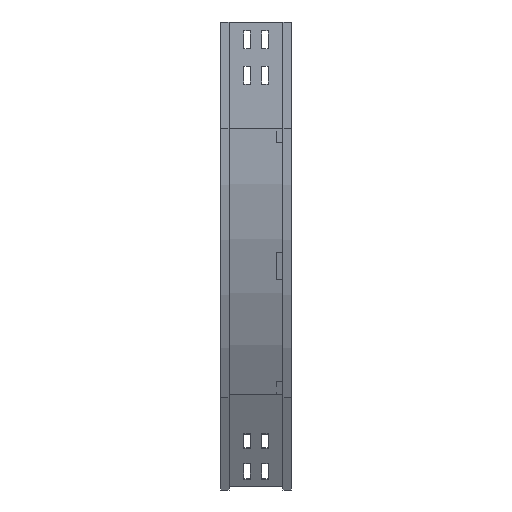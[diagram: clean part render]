
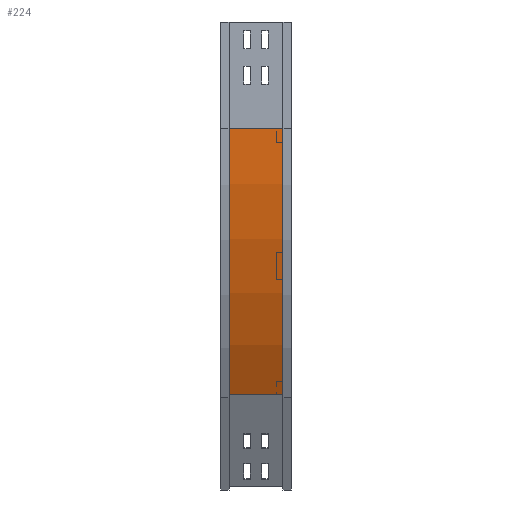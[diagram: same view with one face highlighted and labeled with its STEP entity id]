
A CAD part, left-side view. The second image highlights one B-rep face of the part: STEP entity #224.
In plain terms, the highlighted cylindrical face has radius 750 mm (diameter 1500 mm), a partial arc.
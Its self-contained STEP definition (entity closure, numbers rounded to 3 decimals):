
#79 = ORIENTED_EDGE ( 'NONE', *, *, #229, .T. ) ;
#147 = CIRCLE ( 'NONE', #3859, 750. ) ;
#180 = VERTEX_POINT ( 'NONE', #2511 ) ;
#224 = ADVANCED_FACE ( 'NONE', ( #2421 ), #2781, .T. ) ;
#229 = EDGE_CURVE ( 'NONE', #3177, #2526, #562, .T. ) ;
#324 = CARTESIAN_POINT ( 'NONE',  ( 9., 12., -150. ) ) ;
#389 = CARTESIAN_POINT ( 'NONE',  ( 759., 88., -150. ) ) ;
#409 = DIRECTION ( 'NONE',  ( 0., -1., 0. ) ) ;
#423 = CARTESIAN_POINT ( 'NONE',  ( 109.481, 12., -525. ) ) ;
#562 = CIRCLE ( 'NONE', #1730, 750. ) ;
#601 = DIRECTION ( 'NONE',  ( 0., -1., 0. ) ) ;
#1143 = AXIS2_PLACEMENT_3D ( 'NONE', #2439, #409, #2492 ) ;
#1616 = EDGE_CURVE ( 'NONE', #2526, #1757, #2434, .T. ) ;
#1730 = AXIS2_PLACEMENT_3D ( 'NONE', #389, #3151, #3882 ) ;
#1757 = VERTEX_POINT ( 'NONE', #423 ) ;
#1781 = DIRECTION ( 'NONE',  ( 0., -1., 0. ) ) ;
#1893 = VECTOR ( 'NONE', #1781, 1000. ) ;
#1991 = ORIENTED_EDGE ( 'NONE', *, *, #2317, .F. ) ;
#2317 = EDGE_CURVE ( 'NONE', #180, #1757, #147, .T. ) ;
#2340 = CARTESIAN_POINT ( 'NONE',  ( 759., 12., -150. ) ) ;
#2421 = FACE_OUTER_BOUND ( 'NONE', #4153, .T. ) ;
#2434 = LINE ( 'NONE', #3372, #3996 ) ;
#2439 = CARTESIAN_POINT ( 'NONE',  ( 759., 0., -150. ) ) ;
#2492 = DIRECTION ( 'NONE',  ( 0., 0., -1. ) ) ;
#2511 = CARTESIAN_POINT ( 'NONE',  ( 9., 12., -150. ) ) ;
#2524 = ORIENTED_EDGE ( 'NONE', *, *, #2528, .F. ) ;
#2526 = VERTEX_POINT ( 'NONE', #2832 ) ;
#2528 = EDGE_CURVE ( 'NONE', #3177, #180, #4242, .T. ) ;
#2772 = CARTESIAN_POINT ( 'NONE',  ( 9., 88., -150. ) ) ;
#2781 = CYLINDRICAL_SURFACE ( 'NONE', #1143, 750. ) ;
#2832 = CARTESIAN_POINT ( 'NONE',  ( 109.481, 88., -525. ) ) ;
#3151 = DIRECTION ( 'NONE',  ( 0., -1., 0. ) ) ;
#3175 = ORIENTED_EDGE ( 'NONE', *, *, #1616, .T. ) ;
#3177 = VERTEX_POINT ( 'NONE', #2772 ) ;
#3372 = CARTESIAN_POINT ( 'NONE',  ( 109.481, 12., -525. ) ) ;
#3767 = DIRECTION ( 'NONE',  ( -1., 0., 0. ) ) ;
#3859 = AXIS2_PLACEMENT_3D ( 'NONE', #2340, #601, #3767 ) ;
#3882 = DIRECTION ( 'NONE',  ( -1., 0., 0. ) ) ;
#3996 = VECTOR ( 'NONE', #4460, 1000. ) ;
#4153 = EDGE_LOOP ( 'NONE', ( #1991, #2524, #79, #3175 ) ) ;
#4242 = LINE ( 'NONE', #324, #1893 ) ;
#4460 = DIRECTION ( 'NONE',  ( 0., -1., 0. ) ) ;
